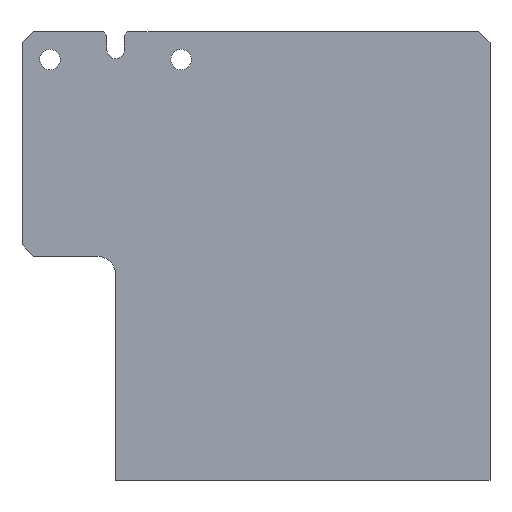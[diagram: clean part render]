
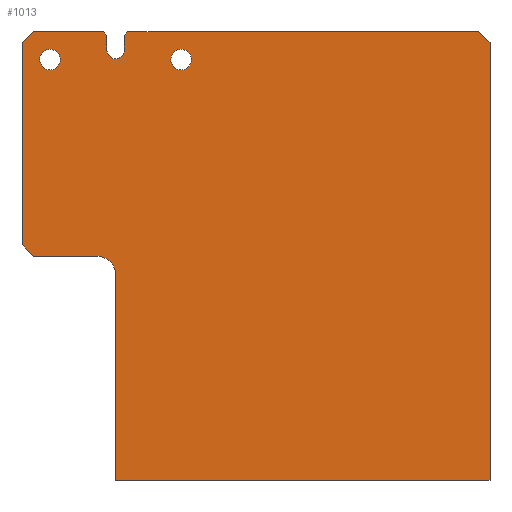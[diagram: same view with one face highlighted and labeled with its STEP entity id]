
A CAD part, left-side view. The second image highlights one B-rep face of the part: STEP entity #1013.
In plain terms, the highlighted planar face has unit normal (-1, 0, 0).
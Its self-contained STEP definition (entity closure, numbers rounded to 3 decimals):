
#118=CARTESIAN_POINT('Vertex',(0.,84.913,-8.818)) ;
#123=CARTESIAN_POINT('Axis2P3D Location',(0.,82.5,-7.5)) ;
#127=CARTESIAN_POINT('Vertex',(0.,80.087,-6.182)) ;
#149=CARTESIAN_POINT('Axis2P3D Location',(0.,82.5,-7.5)) ;
#175=CARTESIAN_POINT('Vertex',(0.,119.913,-8.818)) ;
#180=CARTESIAN_POINT('Axis2P3D Location',(0.,117.5,-7.5)) ;
#184=CARTESIAN_POINT('Vertex',(0.,115.087,-6.182)) ;
#206=CARTESIAN_POINT('Axis2P3D Location',(0.,117.5,-7.5)) ;
#228=CARTESIAN_POINT('Axis2P3D Location',(0.,100.,-5.)) ;
#232=CARTESIAN_POINT('Vertex',(0.,97.7,-5.)) ;
#234=CARTESIAN_POINT('Vertex',(0.,102.3,-5.)) ;
#452=CARTESIAN_POINT('Vertex',(0.,125.,-3.)) ;
#455=CARTESIAN_POINT('Line Origine',(0.,123.5,-1.5)) ;
#459=CARTESIAN_POINT('Vertex',(0.,122.,0.)) ;
#479=CARTESIAN_POINT('Line Origine',(0.,125.,-30.)) ;
#483=CARTESIAN_POINT('Vertex',(0.,125.,-57.)) ;
#510=CARTESIAN_POINT('Line Origine',(0.,123.5,-58.5)) ;
#514=CARTESIAN_POINT('Vertex',(0.,122.,-60.)) ;
#545=CARTESIAN_POINT('Vertex',(0.,3.,0.)) ;
#550=CARTESIAN_POINT('Line Origine',(0.,1.5,-1.5)) ;
#554=CARTESIAN_POINT('Vertex',(0.,0.,-3.)) ;
#602=CARTESIAN_POINT('Line Origine',(0.,0.,-61.45)) ;
#606=CARTESIAN_POINT('Vertex',(0.,0.,-119.9)) ;
#746=CARTESIAN_POINT('Line Origine',(0.,50.,-119.9)) ;
#750=CARTESIAN_POINT('Vertex',(0.,100.,-119.9)) ;
#812=CARTESIAN_POINT('Line Origine',(0.,97.7,-3.)) ;
#816=CARTESIAN_POINT('Vertex',(0.,97.7,-1.)) ;
#842=CARTESIAN_POINT('Vertex',(0.,96.7,0.)) ;
#845=CARTESIAN_POINT('Line Origine',(0.,49.85,0.)) ;
#867=CARTESIAN_POINT('Line Origine',(0.,97.2,-0.5)) ;
#889=CARTESIAN_POINT('Line Origine',(0.,102.3,-3.)) ;
#893=CARTESIAN_POINT('Vertex',(0.,102.3,-1.)) ;
#921=CARTESIAN_POINT('Vertex',(0.,103.3,0.)) ;
#929=CARTESIAN_POINT('Line Origine',(0.,112.65,0.)) ;
#946=CARTESIAN_POINT('Line Origine',(0.,102.8,-0.5)) ;
#963=CARTESIAN_POINT('Axis2P3D Location',(0.,0.,0.)) ;
#968=CARTESIAN_POINT('Line Origine',(0.,100.,-92.45)) ;
#972=CARTESIAN_POINT('Vertex',(0.,100.,-65.)) ;
#975=CARTESIAN_POINT('Line Origine',(0.,113.5,-60.)) ;
#979=CARTESIAN_POINT('Vertex',(0.,105.,-60.)) ;
#982=CARTESIAN_POINT('Axis2P3D Location',(0.,105.,-65.)) ;
#124=DIRECTION('Axis2P3D Direction',(-1.,0.,0.)) ;
#150=DIRECTION('Axis2P3D Direction',(-1.,0.,0.)) ;
#181=DIRECTION('Axis2P3D Direction',(-1.,0.,-0.)) ;
#207=DIRECTION('Axis2P3D Direction',(-1.,0.,-0.)) ;
#229=DIRECTION('Axis2P3D Direction',(1.,0.,-0.)) ;
#456=DIRECTION('Vector Direction',(0.,0.707,-0.707)) ;
#480=DIRECTION('Vector Direction',(0.,0.,-1.)) ;
#511=DIRECTION('Vector Direction',(0.,0.707,0.707)) ;
#551=DIRECTION('Vector Direction',(0.,0.707,0.707)) ;
#603=DIRECTION('Vector Direction',(0.,0.,-1.)) ;
#747=DIRECTION('Vector Direction',(0.,1.,0.)) ;
#813=DIRECTION('Vector Direction',(0.,0.,-1.)) ;
#846=DIRECTION('Vector Direction',(0.,1.,0.)) ;
#868=DIRECTION('Vector Direction',(0.,-0.707,0.707)) ;
#890=DIRECTION('Vector Direction',(0.,0.,-1.)) ;
#930=DIRECTION('Vector Direction',(0.,1.,0.)) ;
#947=DIRECTION('Vector Direction',(0.,-0.707,-0.707)) ;
#964=DIRECTION('Axis2P3D Direction',(1.,0.,-0.)) ;
#965=DIRECTION('Axis2P3D XDirection',(-0.,0.,-1.)) ;
#969=DIRECTION('Vector Direction',(0.,0.,-1.)) ;
#976=DIRECTION('Vector Direction',(0.,1.,0.)) ;
#983=DIRECTION('Axis2P3D Direction',(1.,0.,-0.)) ;
#125=AXIS2_PLACEMENT_3D('Circle Axis2P3D',#123,#124,$) ;
#151=AXIS2_PLACEMENT_3D('Circle Axis2P3D',#149,#150,$) ;
#182=AXIS2_PLACEMENT_3D('Circle Axis2P3D',#180,#181,$) ;
#208=AXIS2_PLACEMENT_3D('Circle Axis2P3D',#206,#207,$) ;
#230=AXIS2_PLACEMENT_3D('Circle Axis2P3D',#228,#229,$) ;
#966=AXIS2_PLACEMENT_3D('Plane Axis2P3D',#963,#964,#965) ;
#984=AXIS2_PLACEMENT_3D('Circle Axis2P3D',#982,#983,$) ;
#988=ORIENTED_EDGE('',*,*,#974,.F.) ;
#989=ORIENTED_EDGE('',*,*,#752,.F.) ;
#990=ORIENTED_EDGE('',*,*,#608,.T.) ;
#991=ORIENTED_EDGE('',*,*,#556,.F.) ;
#992=ORIENTED_EDGE('',*,*,#849,.T.) ;
#993=ORIENTED_EDGE('',*,*,#871,.F.) ;
#994=ORIENTED_EDGE('',*,*,#818,.T.) ;
#995=ORIENTED_EDGE('',*,*,#236,.T.) ;
#996=ORIENTED_EDGE('',*,*,#895,.F.) ;
#997=ORIENTED_EDGE('',*,*,#950,.F.) ;
#998=ORIENTED_EDGE('',*,*,#933,.T.) ;
#999=ORIENTED_EDGE('',*,*,#461,.F.) ;
#1000=ORIENTED_EDGE('',*,*,#485,.F.) ;
#1001=ORIENTED_EDGE('',*,*,#516,.F.) ;
#1002=ORIENTED_EDGE('',*,*,#981,.F.) ;
#1003=ORIENTED_EDGE('',*,*,#986,.T.) ;
#1006=ORIENTED_EDGE('',*,*,#153,.T.) ;
#1007=ORIENTED_EDGE('',*,*,#129,.T.) ;
#1010=ORIENTED_EDGE('',*,*,#210,.T.) ;
#1011=ORIENTED_EDGE('',*,*,#186,.T.) ;
#1008=FACE_BOUND('',#1005,.T.) ;
#1012=FACE_BOUND('',#1009,.T.) ;
#457=VECTOR('Line Direction',#456,1.) ;
#481=VECTOR('Line Direction',#480,1.) ;
#512=VECTOR('Line Direction',#511,1.) ;
#552=VECTOR('Line Direction',#551,1.) ;
#604=VECTOR('Line Direction',#603,1.) ;
#748=VECTOR('Line Direction',#747,1.) ;
#814=VECTOR('Line Direction',#813,1.) ;
#847=VECTOR('Line Direction',#846,1.) ;
#869=VECTOR('Line Direction',#868,1.) ;
#891=VECTOR('Line Direction',#890,1.) ;
#931=VECTOR('Line Direction',#930,1.) ;
#948=VECTOR('Line Direction',#947,1.) ;
#970=VECTOR('Line Direction',#969,1.) ;
#977=VECTOR('Line Direction',#976,1.) ;
#1013=ADVANCED_FACE('\X2\96F64EF651E04F554F53\X0\',(#1004,#1008,#1012),#967,.F.) ;
#126=CIRCLE('generated circle',#125,2.75) ;
#152=CIRCLE('generated circle',#151,2.75) ;
#183=CIRCLE('generated circle',#182,2.75) ;
#209=CIRCLE('generated circle',#208,2.75) ;
#231=CIRCLE('generated circle',#230,2.3) ;
#985=CIRCLE('generated circle',#984,5.) ;
#129=EDGE_CURVE('',#128,#119,#126,.F.) ;
#153=EDGE_CURVE('',#119,#128,#152,.F.) ;
#186=EDGE_CURVE('',#185,#176,#183,.F.) ;
#210=EDGE_CURVE('',#176,#185,#209,.F.) ;
#236=EDGE_CURVE('',#233,#235,#231,.T.) ;
#461=EDGE_CURVE('',#453,#460,#458,.F.) ;
#485=EDGE_CURVE('',#484,#453,#482,.F.) ;
#516=EDGE_CURVE('',#515,#484,#513,.T.) ;
#556=EDGE_CURVE('',#546,#555,#553,.F.) ;
#608=EDGE_CURVE('',#607,#555,#605,.F.) ;
#752=EDGE_CURVE('',#607,#751,#749,.T.) ;
#818=EDGE_CURVE('',#817,#233,#815,.T.) ;
#849=EDGE_CURVE('',#546,#843,#848,.T.) ;
#871=EDGE_CURVE('',#817,#843,#870,.T.) ;
#895=EDGE_CURVE('',#894,#235,#892,.T.) ;
#933=EDGE_CURVE('',#922,#460,#932,.T.) ;
#950=EDGE_CURVE('',#922,#894,#949,.T.) ;
#974=EDGE_CURVE('',#751,#973,#971,.F.) ;
#981=EDGE_CURVE('',#980,#515,#978,.T.) ;
#986=EDGE_CURVE('',#980,#973,#985,.T.) ;
#987=EDGE_LOOP('',(#988,#989,#990,#991,#992,#993,#994,#995,#996,#997,#998,#999,#1000,#1001,#1002,#1003)) ;
#1005=EDGE_LOOP('',(#1006,#1007)) ;
#1009=EDGE_LOOP('',(#1010,#1011)) ;
#1004=FACE_OUTER_BOUND('',#987,.T.) ;
#458=LINE('Line',#455,#457) ;
#482=LINE('Line',#479,#481) ;
#513=LINE('Line',#510,#512) ;
#553=LINE('Line',#550,#552) ;
#605=LINE('Line',#602,#604) ;
#749=LINE('Line',#746,#748) ;
#815=LINE('Line',#812,#814) ;
#848=LINE('Line',#845,#847) ;
#870=LINE('Line',#867,#869) ;
#892=LINE('Line',#889,#891) ;
#932=LINE('Line',#929,#931) ;
#949=LINE('Line',#946,#948) ;
#971=LINE('Line',#968,#970) ;
#978=LINE('Line',#975,#977) ;
#967=PLANE('Plane',#966) ;
#119=VERTEX_POINT('',#118) ;
#128=VERTEX_POINT('',#127) ;
#176=VERTEX_POINT('',#175) ;
#185=VERTEX_POINT('',#184) ;
#233=VERTEX_POINT('',#232) ;
#235=VERTEX_POINT('',#234) ;
#453=VERTEX_POINT('',#452) ;
#460=VERTEX_POINT('',#459) ;
#484=VERTEX_POINT('',#483) ;
#515=VERTEX_POINT('',#514) ;
#546=VERTEX_POINT('',#545) ;
#555=VERTEX_POINT('',#554) ;
#607=VERTEX_POINT('',#606) ;
#751=VERTEX_POINT('',#750) ;
#817=VERTEX_POINT('',#816) ;
#843=VERTEX_POINT('',#842) ;
#894=VERTEX_POINT('',#893) ;
#922=VERTEX_POINT('',#921) ;
#973=VERTEX_POINT('',#972) ;
#980=VERTEX_POINT('',#979) ;
